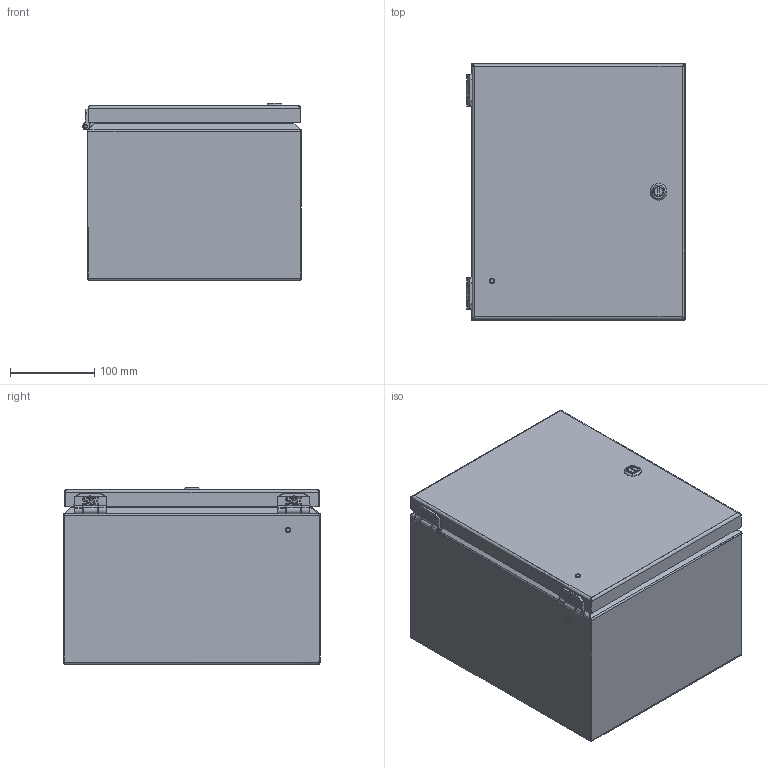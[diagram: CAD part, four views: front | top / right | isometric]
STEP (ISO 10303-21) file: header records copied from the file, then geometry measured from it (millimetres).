
FILE_DESCRIPTION((''),'2;1');
FILE_NAME('MODEL-059_ASM','2025-05-14T10:16:49',('joshi'),('SAGINAW CONTROL & ENGINEERING'),'CREO PARAMETRIC BY PTC INC, 2021284','CREO PARAMETRIC BY PTC INC, 2021284','');
FILE_SCHEMA(('AUTOMOTIVE_DESIGN { 1 0 10303 214 1 1 1 1 }'));
Length unit declared in the file: inch
Products named in the file (25): MODEL-059-BDY; MODEL-059-DR; 112643-BOX-LEAF; 112643-BOX-LEAF-STUD; 112643-BOX_ASM; 112643-DOOR-LEAF; 112643-DOOR-LEAF-STUD; 112643-DOOR_ASM; 112643-PIN; 112643_ASM; 113152; 100097; 100012; 112987_SHAFT; 112987_INSERT; 112984; 112987_SCREW; 112987_NUT; 112987_ASM; MODEL-059-GSKT; 120706; CH-ELJ_SUBPANEL; 102479; CH-ELJ_SUBPANEL-SUBASSEMBLY_ASM; MODEL-059_ASM
Assembly tree (35 placements, depth 4):
  MODEL-059_ASM
    MODEL-059-BDY
    MODEL-059-DR
    112643_ASM  x2
      112643-BOX_ASM
        112643-BOX-LEAF
        112643-BOX-LEAF-STUD
      112643-DOOR_ASM
        112643-DOOR-LEAF
        112643-DOOR-LEAF-STUD
      112643-PIN
    113152  x4
    100097  x2
    100012  x4
    112987_ASM
      112987_SHAFT
      112987_INSERT
      112984
      112987_SCREW
      112987_NUT
    MODEL-059-GSKT
    120706
    CH-ELJ_SUBPANEL-SUBASSEMBLY_ASM
      CH-ELJ_SUBPANEL
      102479  x4
Bounding box: 259.6 x 304.8 x 210.71 mm (x, y, z)
Volume: 789790.1 mm3; surface area: 980079.6 mm2
Topology: 34 solids, 36 shells, 3020 faces, 7743 edges, 4756 vertices
Faces by surface type: plane 1022, cylinder 886, bspline 850, cone 126, torus 116, sphere 20
Entity records: 104655 total; most frequent: CARTESIAN_POINT 55732, ORIENTED_EDGE 7350, DIRECTION 6202, PRESENTATION_STYLE_ASSIGNMENT 3844, STYLED_ITEM 3844, EDGE_CURVE 3675, CURVE_STYLE 3585, VERTEX_POINT 2294
